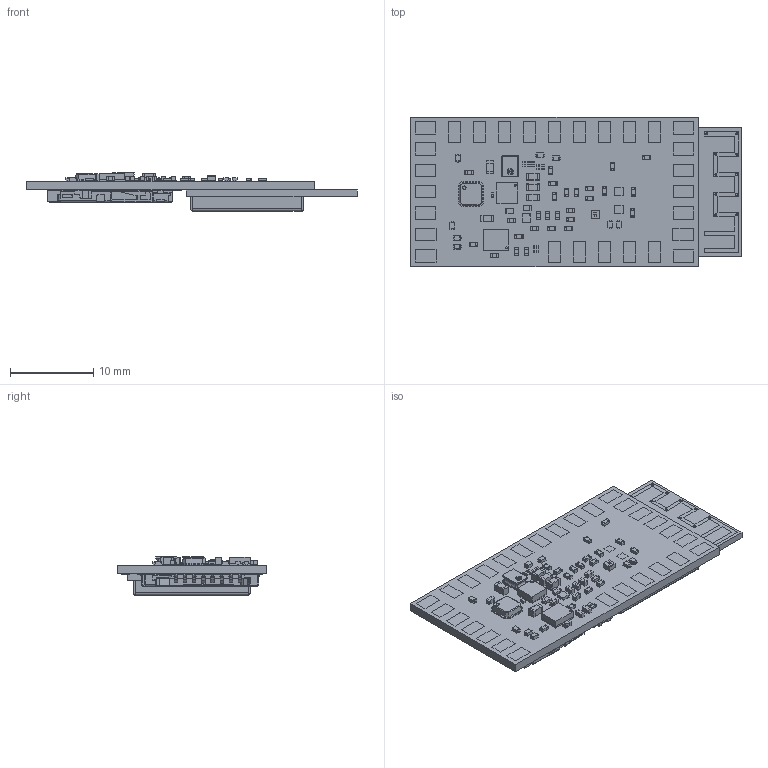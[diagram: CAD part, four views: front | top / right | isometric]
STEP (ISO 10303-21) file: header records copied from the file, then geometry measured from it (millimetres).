
FILE_DESCRIPTION(/* description */ (''),/* implementation_level */ '2;1');
FILE_NAME(/* name */ 'GHv4.step',/* time_stamp */ '2024-07-04T15:03:22-07:00',/* author */ (''),/* organization */ (''),/* preprocessor_version */ 'ST-DEVELOPER v20',/* originating_system */ 'Autodesk Translation Framework v13.14.0.145',/* authorisation */ '');
FILE_SCHEMA (('AUTOMOTIVE_DESIGN { 1 0 10303 214 3 1 1 }'));
Products named in the file (1): GHv4
Bounding box: 39.67 x 17.95 x 4.62 mm (x, y, z)
Volume: 1116.5 mm3; surface area: 3944.1 mm2
Topology: 365 solids, 365 shells, 5378 faces, 12665 edges, 8031 vertices
Faces by surface type: plane 4132, cylinder 946, sphere 232, bspline 52, torus 16
Full cylindrical faces by diameter (mm): 0.05 x58, 0.085 x2, 0.25 x44, 0.35 x1, 0.4 x2, 0.5 x2, 0.8 x2
Entity records: 152588 total; most frequent: CARTESIAN_POINT 27872, ORIENTED_EDGE 25082, DIRECTION 25038, EDGE_CURVE 12541, LINE 10562, VECTOR 10562, VERTEX_POINT 8031, AXIS2_PLACEMENT_3D 7238
